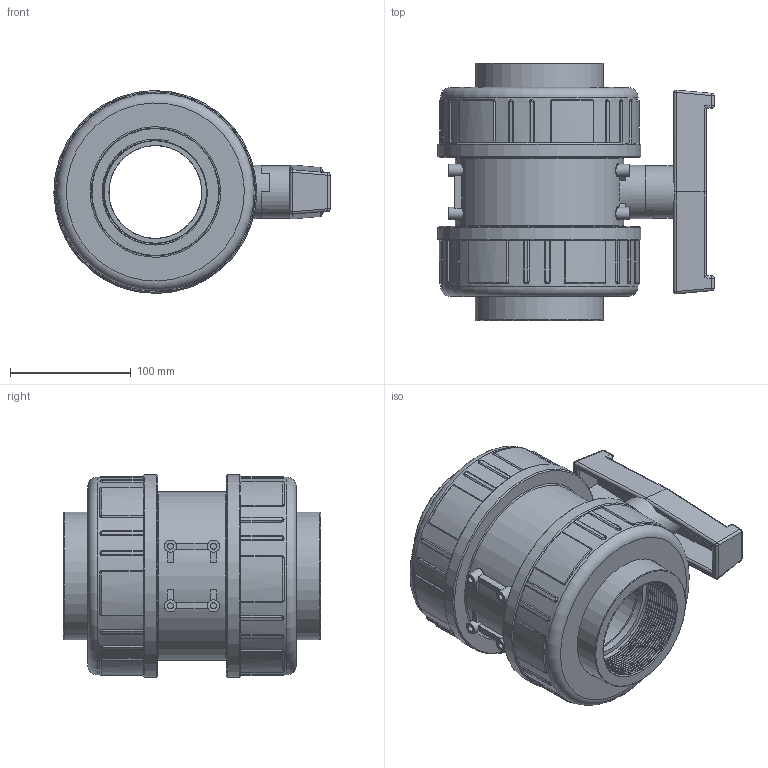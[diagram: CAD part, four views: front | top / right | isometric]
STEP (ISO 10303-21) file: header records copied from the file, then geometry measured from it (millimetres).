
FILE_DESCRIPTION(/* description */ (''),/* implementation_level */ '2;1');
FILE_NAME(/* name */ 'C:\Users\POLYPIPE\Desktop\DATASET INVENTOR\LIBRERIA EFFAST\3D_VALVOLE\3D_VALVOLE A SFERA\3D_BK1\3D_BERBK1E\3D_BERBK1E090I.stp',/* time_stamp */ '2018-01-24T09:02:10+01:00',/* author */ ('POLYPIPE'),/* organization */ (''),/* preprocessor_version */ 'ST-DEVELOPER v16.1',/* originating_system */ 'Autodesk Inventor 2016',/* authorisation */ '');
FILE_SCHEMA (('CONFIG_CONTROL_DESIGN'));
Products named in the file (1): 3D_BERBK1E090I
Bounding box: 228.75 x 213 x 168 mm (x, y, z)
Volume: 2642464.8 mm3; surface area: 387791.2 mm2
Topology: 3 solids, 4 shells, 564 faces, 1416 edges, 885 vertices
Faces by surface type: plane 184, cylinder 180, bspline 162, torus 22, sphere 12, cone 4
Full cylindrical faces by diameter (mm): 5 x8, 10 x8, 29.8 x1, 43.5 x1, 44.1 x1, 76.8 x1, 77 x2, 84.926 x2, 106 x2, 108.2 x2, 133 x2, 137 x2, 139.5 x1, 142.5 x2, 163.5 x2, 168 x2
Entity records: 71562 total; most frequent: CARTESIAN_POINT 58425, ORIENTED_EDGE 2698, DIRECTION 2370, EDGE_CURVE 1349, AXIS2_PLACEMENT_3D 902, VERTEX_POINT 869, EDGE_LOOP 646, STYLED_ITEM 567
